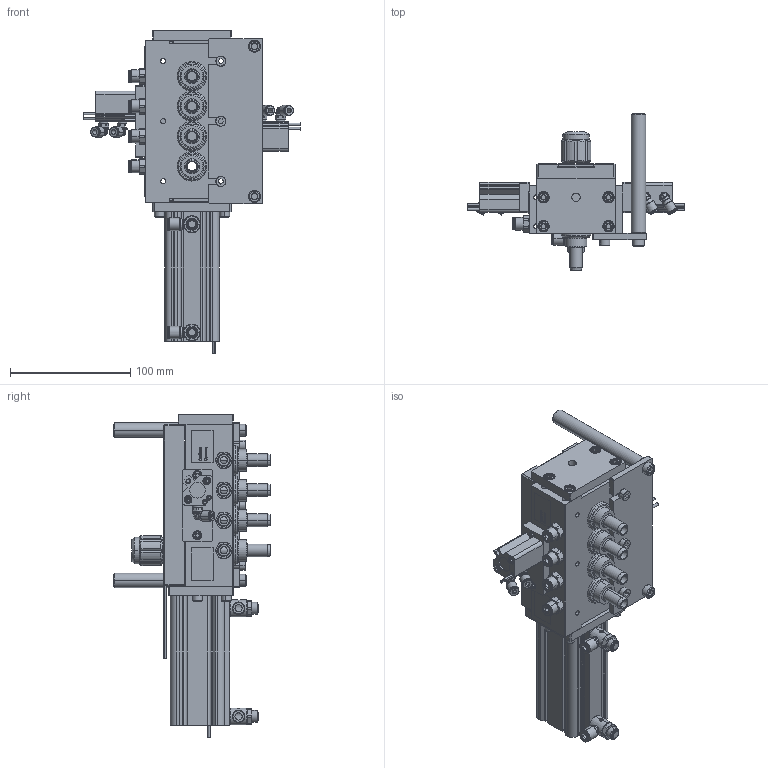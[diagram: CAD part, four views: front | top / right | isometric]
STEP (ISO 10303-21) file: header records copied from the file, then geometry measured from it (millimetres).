
FILE_DESCRIPTION (( 'STEP AP214' ), '1' );
FILE_NAME ('DROP 4 VIE.STEP', '2026-02-27T08:36:00', ( '' ), ( '' ), 'SwSTEP 2.0', 'SolidWorks 2022', '' );
FILE_SCHEMA (( 'AUTOMOTIVE_DESIGN' ));
Length unit declared in the file: millimetre
Products named in the file (1): DROP 4 VIE
Bounding box: 180 x 131 x 268.7 mm (x, y, z)
Surface area: 167468.5 mm2 (no closed solid volume)
Topology: 0 solids, 99 shells, 1424 faces, 4192 edges, 2858 vertices
Faces by surface type: plane 596, cylinder 449, cone 292, torus 44, bspline 35, sphere 8
Entity records: 68763 total; most frequent: CARTESIAN_POINT 15857, DIRECTION 7955, ORIENTED_EDGE 6826, EDGE_CURVE 4188, AXIS2_PLACEMENT_3D 3035, VERTEX_POINT 2858, LINE 1885, VECTOR 1885
